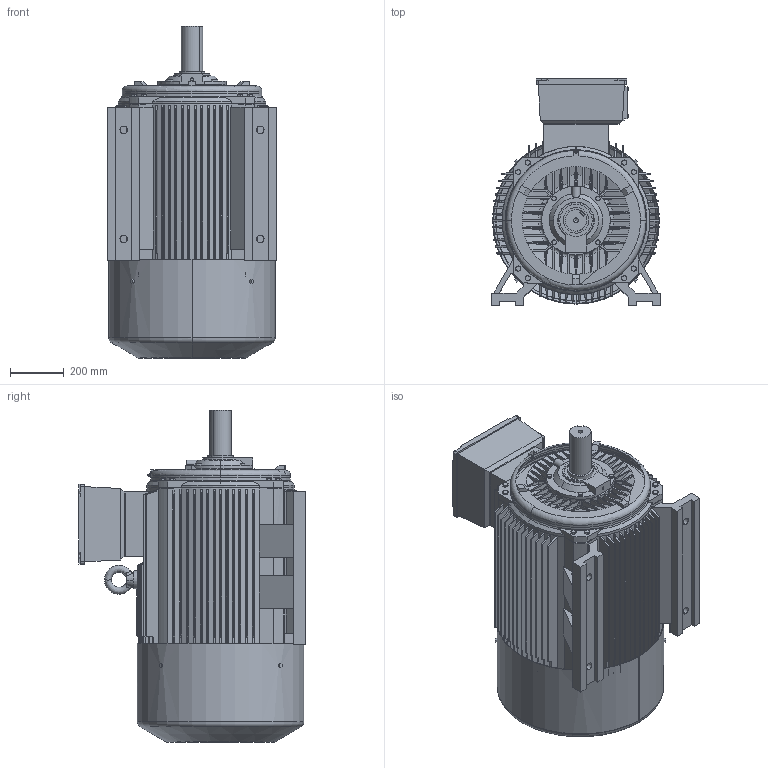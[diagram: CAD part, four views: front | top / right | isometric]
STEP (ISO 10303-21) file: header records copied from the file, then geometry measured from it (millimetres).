
FILE_DESCRIPTION (( 'STEP AP203' ), '1' );
FILE_NAME ('TE3-315S-4,6,8 B3上.STEP', '2019-12-31T00:10:31', ( '微软用户' ), ( '微软中国' ), 'SwSTEP 2.0', 'SolidWorks 2012', '' );
FILE_SCHEMA (( 'CONFIG_CONTROL_DESIGN' ));
Products named in the file (14): 8SLJ.306.00027（风罩YE3-315-4.6.8）; 8LY2.315.014.003（端盖（轴伸）Y2-315-4,6,8,10）; 8LY2.315.034.001(儂釱Y2-315S) ; TE3-315S-4,6,8 B3奻; YE3-315-4,6,8粣扥; Y2-315-4,6,8,10轴承外盖（轴伸）; hex head bolts-full thread grade c gb_GB_FASTENER_BOLT_HHBFTC M12X30-N; Y2-135 P24諉盄碟; hex head bolts-full thread grade c gb_GB_FASTENER_BOLT_HHBFTC M6X20-N; hex head bolts-full thread grade c gb_GB_FASTENER_BOLT_HHBFTC M10X20-N; 諉盄碟裔 WY315; 諉盄碟釱Y2-315; 蚐戚; eyebolts gb_GB_FASTENER_SCREWS_FRS M30-N
Assembly tree (30 placements, depth 3):
  TE3-315S-4,6,8 B3奻
    8LY2.315.034.001(儂釱Y2-315S) 
    8LY2.315.014.003（端盖（轴伸）Y2-315-4,6,8,10）
    8SLJ.306.00027（风罩YE3-315-4.6.8）
    eyebolts gb_GB_FASTENER_SCREWS_FRS M30-N
    蚐戚
    Y2-135 P24諉盄碟
      諉盄碟釱Y2-315
      諉盄碟裔 WY315
      hex head bolts-full thread grade c gb_GB_FASTENER_BOLT_HHBFTC M10X20-N  x4
      hex head bolts-full thread grade c gb_GB_FASTENER_BOLT_HHBFTC M6X20-N  x4
    hex head bolts-full thread grade c gb_GB_FASTENER_BOLT_HHBFTC M12X30-N  x8
    hex head bolts-full thread grade c gb_GB_FASTENER_BOLT_HHBFTC M10X20-N  x4
    Y2-315-4,6,8,10轴承外盖（轴伸）
    YE3-315-4,6,8粣扥
Bounding box: 628 x 842.4 x 1235 mm (x, y, z)
Volume: 207731493.1 mm3; surface area: 8182179.1 mm2
Topology: 30 solids, 30 shells, 9151 faces, 24231 edges, 16102 vertices
Faces by surface type: plane 4888, cylinder 3715, cone 324, bspline 146, torus 76, sphere 2
Entity records: 361033 total; most frequent: CARTESIAN_POINT 134401, DIRECTION 47238, ORIENTED_EDGE 46884, EDGE_CURVE 23442, AXIS2_PLACEMENT_3D 16251, VERTEX_POINT 15623, LINE 14736, VECTOR 14736
